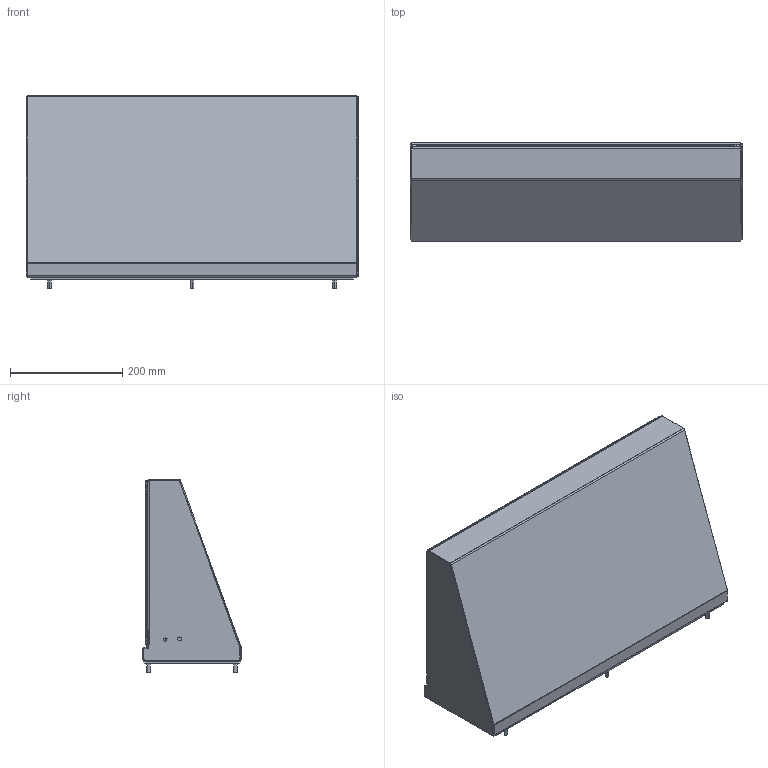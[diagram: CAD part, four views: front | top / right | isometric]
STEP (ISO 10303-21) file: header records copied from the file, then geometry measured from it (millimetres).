
FILE_DESCRIPTION (( 'STEP AP203' ), '1' );
FILE_NAME ('35419.step', '2013-04-09T06:59:07', ( '' ), ( '' ), 'SwSTEP 2.0', 'SolidWorks 2010', '' );
FILE_SCHEMA (( 'CONFIG_CONTROL_DESIGN' ));
Length unit declared in the file: inch
Products named in the file (11): 46344003; 46344004; 89061005; 48437004; 45202001_45202001; 35419; 87553009; 89061004; 99414350; 48443004; 87401219_FOR ASSEMBLY
Assembly tree (20 placements, depth 3):
  35419
    87553009
      99414350  x7
      46344003
      48437004
      46344004
    45202001_45202001  x4
    87401219_FOR ASSEMBLY
    48443004
      99414350
      89061005
      89061004
Bounding box: 591.74 x 174.96 x 343.95 mm (x, y, z)
Volume: 1182363.3 mm3; surface area: 1282421.9 mm2
Topology: 19 solids, 19 shells, 499 faces, 1118 edges, 678 vertices
Faces by surface type: plane 321, cylinder 98, cone 40, torus 28, bspline 12
Entity records: 10665 total; most frequent: CARTESIAN_POINT 2039, DIRECTION 1506, ORIENTED_EDGE 1436, EDGE_CURVE 718, AXIS2_PLACEMENT_3D 503, LINE 500, VECTOR 500, VERTEX_POINT 428
